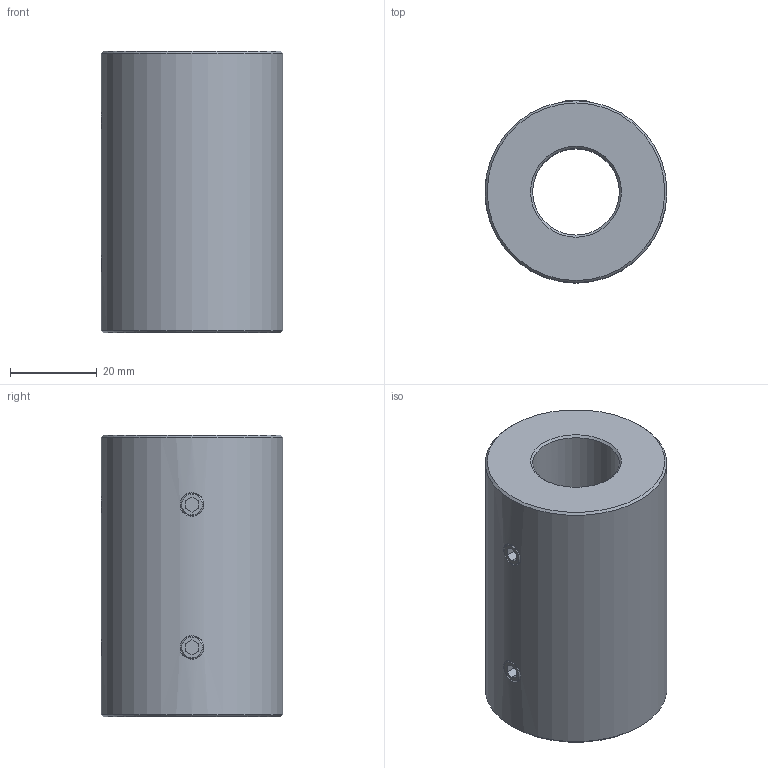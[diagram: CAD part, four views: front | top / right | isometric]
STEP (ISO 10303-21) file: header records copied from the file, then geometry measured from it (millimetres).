
FILE_DESCRIPTION (( 'STEP AP214' ), '1' );
FILE_NAME ('KBST1-VA-20.STEP', '2025-07-29T07:01:10', ( '' ), ( '' ), 'SwSTEP 2.0', 'SolidWorks 2024', '' );
FILE_SCHEMA (( 'AUTOMOTIVE_DESIGN' ));
Length unit declared in the file: millimetre
Products named in the file (1): KBST1-VA-20
Bounding box: 42 x 42 x 65 mm (x, y, z)
Volume: 69021.8 mm3; surface area: 16084.2 mm2
Topology: 5 solids, 5 shells, 80 faces, 178 edges, 104 vertices
Faces by surface type: plane 34, cone 28, cylinder 14, bspline 4
Full cylindrical faces by diameter (mm): 5 x4, 20 x1, 42 x1
Entity records: 7603 total; most frequent: CARTESIAN_POINT 4981, DIRECTION 338, ORIENTED_EDGE 312, EDGE_CURVE 156, AXIS2_PLACEMENT_3D 117, EDGE_LOOP 108, LINE 104, VECTOR 104
